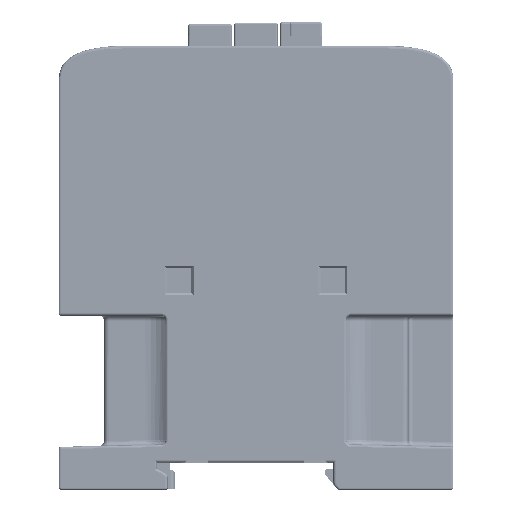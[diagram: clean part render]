
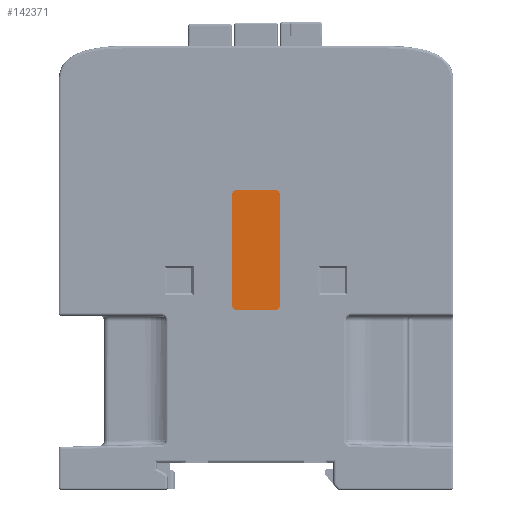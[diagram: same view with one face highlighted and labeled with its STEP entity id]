
A CAD part, left-side view. The second image highlights one B-rep face of the part: STEP entity #142371.
In plain terms, the highlighted planar face has unit normal (-1, 0, 0) as drawn and (1, 0, 0) by its records, which use the part's own axes.
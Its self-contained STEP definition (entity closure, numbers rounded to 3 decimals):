
#12320 = CIRCLE ( 'NONE', #288313, 1. ) ;
#25225 = VECTOR ( 'NONE', #84798, 1000. ) ;
#25983 = DIRECTION ( 'NONE',  ( 1., 0., 0. ) ) ;
#28142 = CARTESIAN_POINT ( 'NONE',  ( 0.2, -4., -12.5 ) ) ;
#36389 = DIRECTION ( 'NONE',  ( 0., 0., 1. ) ) ;
#36878 = FACE_OUTER_BOUND ( 'NONE', #85349, .T. ) ;
#37104 = DIRECTION ( 'NONE',  ( 0., 0., -1. ) ) ;
#40659 = CARTESIAN_POINT ( 'NONE',  ( 0.2, -4., 12.5 ) ) ;
#41870 = CARTESIAN_POINT ( 'NONE',  ( 0.2, 4., 12.5 ) ) ;
#44795 = AXIS2_PLACEMENT_3D ( 'NONE', #226240, #354790, #36389 ) ;
#67218 = VERTEX_POINT ( 'NONE', #28142 ) ;
#74434 = EDGE_CURVE ( 'NONE', #317694, #104019, #401782, .T. ) ;
#84798 = DIRECTION ( 'NONE',  ( 0., 1., 0. ) ) ;
#85349 = EDGE_LOOP ( 'NONE', ( #177087, #170104, #112459, #175674, #278840, #299911, #142243, #228731 ) ) ;
#100096 = DIRECTION ( 'NONE',  ( 0., 1., 0. ) ) ;
#104019 = VERTEX_POINT ( 'NONE', #300243 ) ;
#104277 = DIRECTION ( 'NONE',  ( 1., 0., 0. ) ) ;
#110196 = LINE ( 'NONE', #337908, #25225 ) ;
#112459 = ORIENTED_EDGE ( 'NONE', *, *, #268955, .T. ) ;
#124762 = EDGE_CURVE ( 'NONE', #293977, #317694, #240045, .T. ) ;
#128556 = CARTESIAN_POINT ( 'NONE',  ( 0.2, 4., 11.5 ) ) ;
#130065 = AXIS2_PLACEMENT_3D ( 'NONE', #262671, #197371, #37104 ) ;
#130309 = VECTOR ( 'NONE', #301164, 1000. ) ;
#142243 = ORIENTED_EDGE ( 'NONE', *, *, #275329, .T. ) ;
#142371 = ADVANCED_FACE ( 'NONE', ( #36878 ), #393144, .T. ) ;
#144178 = CIRCLE ( 'NONE', #407005, 1. ) ;
#148461 = CARTESIAN_POINT ( 'NONE',  ( 0.2, -5., 11.5 ) ) ;
#149910 = VECTOR ( 'NONE', #247612, 1000. ) ;
#153327 = VERTEX_POINT ( 'NONE', #344654 ) ;
#154802 = CARTESIAN_POINT ( 'NONE',  ( 0.2, 5., -11.5 ) ) ;
#156648 = CARTESIAN_POINT ( 'NONE',  ( 0.2, -4., -11.5 ) ) ;
#170104 = ORIENTED_EDGE ( 'NONE', *, *, #277424, .T. ) ;
#175674 = ORIENTED_EDGE ( 'NONE', *, *, #356440, .T. ) ;
#177087 = ORIENTED_EDGE ( 'NONE', *, *, #229393, .T. ) ;
#178686 = VERTEX_POINT ( 'NONE', #211238 ) ;
#190696 = DIRECTION ( 'NONE',  ( 0., 1., 0. ) ) ;
#197371 = DIRECTION ( 'NONE',  ( 1., 0., 0. ) ) ;
#211238 = CARTESIAN_POINT ( 'NONE',  ( 0.2, 5., -11.5 ) ) ;
#225642 = DIRECTION ( 'NONE',  ( 1., 0., 0. ) ) ;
#226240 = CARTESIAN_POINT ( 'NONE',  ( 0.2, -4., 11.5 ) ) ;
#228731 = ORIENTED_EDGE ( 'NONE', *, *, #247329, .T. ) ;
#229393 = EDGE_CURVE ( 'NONE', #67218, #387331, #110196, .T. ) ;
#235510 = CARTESIAN_POINT ( 'NONE',  ( 0.2, -5., -11.5 ) ) ;
#240045 = LINE ( 'NONE', #41870, #130309 ) ;
#247329 = EDGE_CURVE ( 'NONE', #256440, #67218, #12320, .T. ) ;
#247612 = DIRECTION ( 'NONE',  ( 0., 0., -1. ) ) ;
#253858 = DIRECTION ( 'NONE',  ( 0., 0., 1. ) ) ;
#256440 = VERTEX_POINT ( 'NONE', #235510 ) ;
#262671 = CARTESIAN_POINT ( 'NONE',  ( 0.2, 4., -11.5 ) ) ;
#268955 = EDGE_CURVE ( 'NONE', #178686, #153327, #414092, .T. ) ;
#275329 = EDGE_CURVE ( 'NONE', #104019, #256440, #401611, .T. ) ;
#277424 = EDGE_CURVE ( 'NONE', #387331, #178686, #318831, .T. ) ;
#278840 = ORIENTED_EDGE ( 'NONE', *, *, #124762, .T. ) ;
#281097 = DIRECTION ( 'NONE',  ( 0., -1., 0. ) ) ;
#288313 = AXIS2_PLACEMENT_3D ( 'NONE', #156648, #25983, #281097 ) ;
#293977 = VERTEX_POINT ( 'NONE', #342149 ) ;
#299911 = ORIENTED_EDGE ( 'NONE', *, *, #74434, .T. ) ;
#300243 = CARTESIAN_POINT ( 'NONE',  ( 0.2, -5., 11.5 ) ) ;
#301164 = DIRECTION ( 'NONE',  ( 0., -1., 0. ) ) ;
#317694 = VERTEX_POINT ( 'NONE', #40659 ) ;
#318831 = CIRCLE ( 'NONE', #130065, 1. ) ;
#321587 = CARTESIAN_POINT ( 'NONE',  ( 0.2, 0., 0. ) ) ;
#337908 = CARTESIAN_POINT ( 'NONE',  ( 0.2, -4., -12.5 ) ) ;
#342149 = CARTESIAN_POINT ( 'NONE',  ( 0.2, 4., 12.5 ) ) ;
#344654 = CARTESIAN_POINT ( 'NONE',  ( 0.2, 5., 11.5 ) ) ;
#354790 = DIRECTION ( 'NONE',  ( 1., 0., 0. ) ) ;
#356440 = EDGE_CURVE ( 'NONE', #153327, #293977, #144178, .T. ) ;
#371606 = AXIS2_PLACEMENT_3D ( 'NONE', #321587, #104277, #100096 ) ;
#379699 = VECTOR ( 'NONE', #253858, 1000. ) ;
#387331 = VERTEX_POINT ( 'NONE', #397480 ) ;
#393144 = PLANE ( 'NONE',  #371606 ) ;
#397480 = CARTESIAN_POINT ( 'NONE',  ( 0.2, 4., -12.5 ) ) ;
#401611 = LINE ( 'NONE', #148461, #149910 ) ;
#401782 = CIRCLE ( 'NONE', #44795, 1. ) ;
#407005 = AXIS2_PLACEMENT_3D ( 'NONE', #128556, #225642, #190696 ) ;
#414092 = LINE ( 'NONE', #154802, #379699 ) ;
